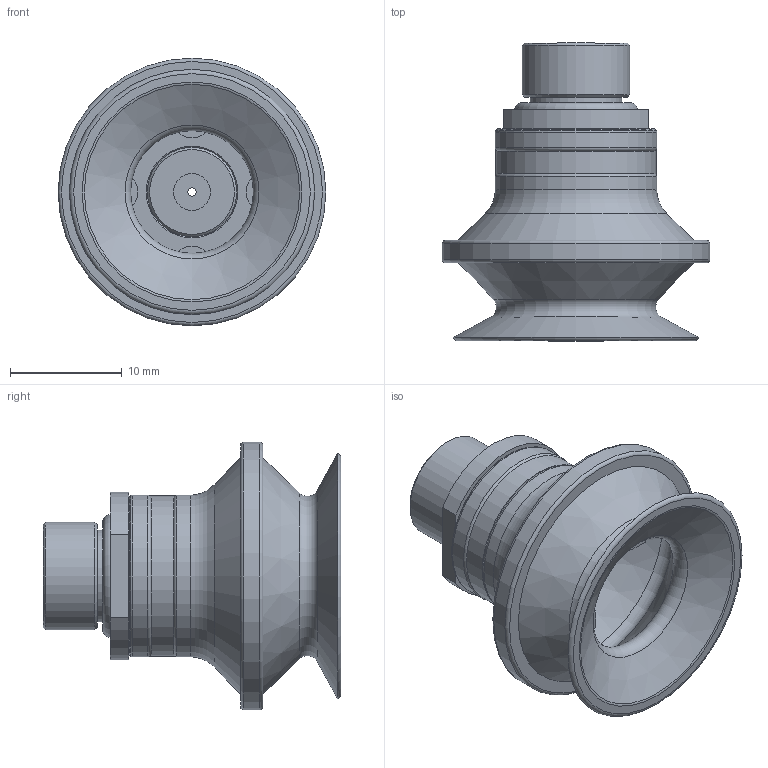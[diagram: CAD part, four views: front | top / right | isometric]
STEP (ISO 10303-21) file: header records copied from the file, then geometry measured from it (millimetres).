
FILE_DESCRIPTION (( 'STEP AP214' ), '1' );
FILE_NAME ('PSB20-G18M-LP.STEP', '2023-05-02T12:59:20', ( '' ), ( '' ), 'SwSTEP 2.0', 'SolidWorks 2018', '' );
FILE_SCHEMA (( 'AUTOMOTIVE_DESIGN' ));
Length unit declared in the file: inch
Products named in the file (4): PSB20; PSB20-G18M-LP; RING FOR PF20; SCF2030-G18M-M5F-LP-DF
Assembly tree (3 placements, depth 2):
  PSB20-G18M-LP
    PSB20
    RING FOR PF20
    SCF2030-G18M-M5F-LP-DF
Bounding box: 24 x 26.7 x 24 mm (x, y, z)
Volume: 3024.2 mm3; surface area: 4516 mm2
Topology: 4 solids, 4 shells, 101 faces, 207 edges, 129 vertices
Faces by surface type: plane 41, cylinder 28, torus 17, cone 15
Full cylindrical faces by diameter (mm): 0.75 x1, 3.3 x2, 4.2 x1, 5 x1, 5.75 x2, 6 x1, 6.5 x1, 7 x1, 8 x1, 8.2 x1, 8.25 x1, 9.5 x1, 9.65 x1, 9.66 x1, 9.915 x1, 13.535 x1, 14.35 x1, 14.5 x2, 24 x1
Entity records: 2634 total; most frequent: CARTESIAN_POINT 453, DIRECTION 432, ORIENTED_EDGE 294, AXIS2_PLACEMENT_3D 198, EDGE_LOOP 178, EDGE_CURVE 147, FACE_OUTER_BOUND 140, VERTEX_POINT 123
